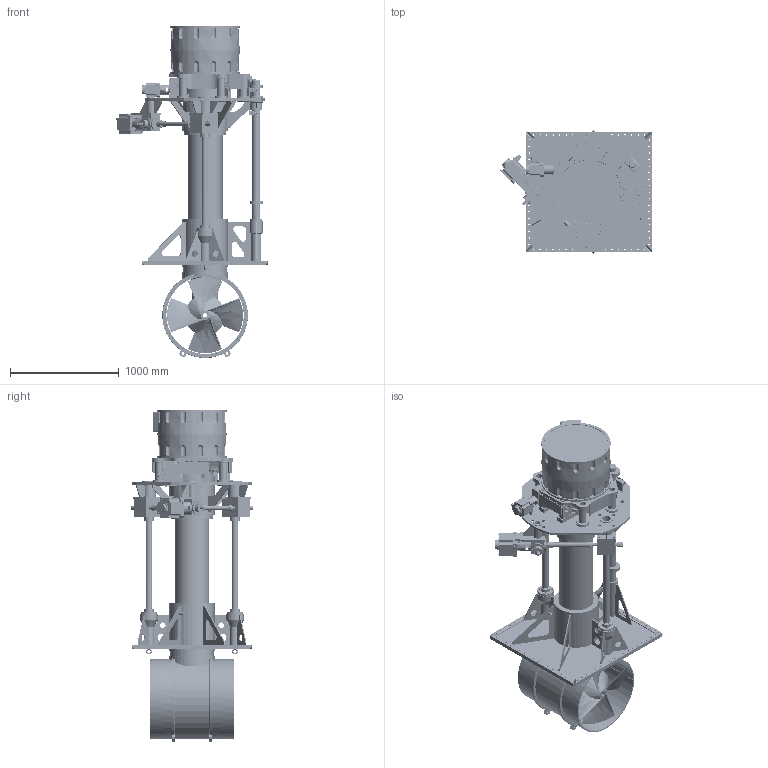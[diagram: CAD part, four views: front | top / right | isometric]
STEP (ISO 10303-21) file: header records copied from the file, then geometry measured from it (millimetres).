
FILE_DESCRIPTION(/* description */ (''),/* implementation_level */ '2;1');
FILE_NAME(/* name */ 'Q:\THRUSTERS\THRUSTER SALES & SUPPORT DOCS\THRUSTER Sales\E-V-R\E-0700-V-R\E-0700-V-R-RETRACTED.stp',/* time_stamp */ '2021-01-29T08:24:58+00:00',/* author */ ('Barney.Webborn'),/* organization */ (''),/* preprocessor_version */ 'ST-DEVELOPER v17.2',/* originating_system */ 'Autodesk Inventor 2019',/* authorisation */ '');
FILE_SCHEMA (('AUTOMOTIVE_DESIGN { 1 0 10303 214 3 1 1 }'));
Products named in the file (1): E-0700-V-R_Shrinkwrap_1
Bounding box: 1390.06 x 1130.21 x 3047.6 mm (x, y, z)
Volume: 369185034.8 mm3; surface area: 23074073.2 mm2
Topology: 7 solids, 7 shells, 5037 faces, 14095 edges, 9272 vertices
Faces by surface type: plane 2096, cylinder 1614, cone 684, torus 477, bspline 107, sphere 59
Full cylindrical faces by diameter (mm): 3 x6, 4 x8, 4.95 x8, 5 x1, 5.5 x12, 7 x23, 7.2 x2, 8 x7, 8.5 x16, 9 x1, 12 x6, 12.4 x16, 12.5 x8, 13 x96, 13.44 x1, 13.494 x12, 13.5 x4, 14 x4, 14.287 x1, 14.3 x1, 15.25 x7, 15.3 x2, 16.5 x8, 17 x19, 17.5 x18, 18 x5, 18.25 x2, 18.376 x2, 18.5 x1, 20 x17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
Entity records: 183535 total; most frequent: CARTESIAN_POINT 47998, ORIENTED_EDGE 28056, DIRECTION 26878, EDGE_CURVE 14028, AXIS2_PLACEMENT_3D 10443, VERTEX_POINT 9272, LINE 5992, VECTOR 5992
